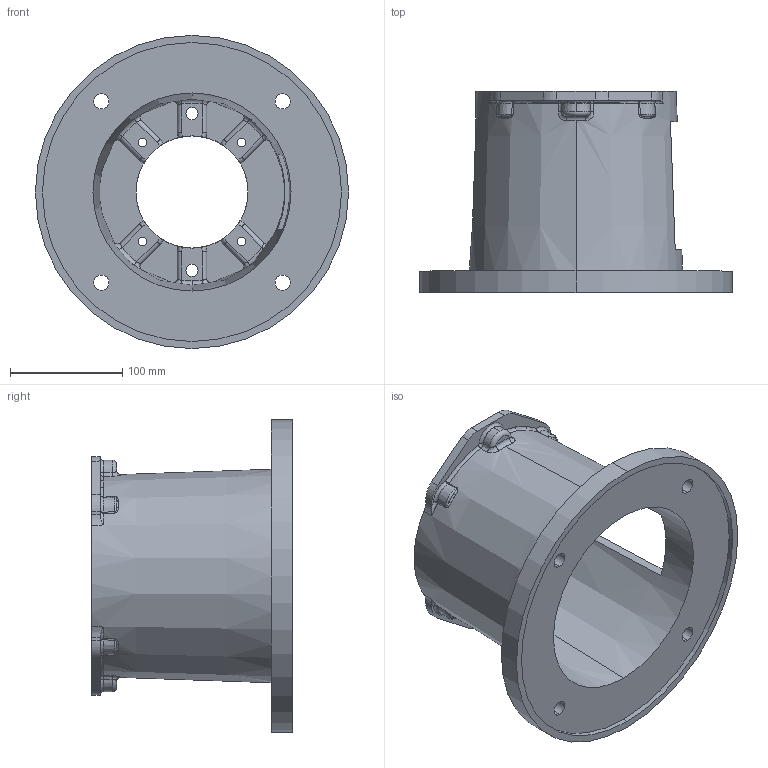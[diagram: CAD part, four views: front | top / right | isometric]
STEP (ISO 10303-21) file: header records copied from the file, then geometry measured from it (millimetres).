
FILE_DESCRIPTION (( 'STEP AP203' ), '1' );
FILE_NAME ('M28468100M.STEP', '2015-01-19T16:35:01', ( '' ), ( '' ), 'SwSTEP 2.0', 'SolidWorks 2014', '' );
FILE_SCHEMA (( 'CONFIG_CONTROL_DESIGN' ));
Length unit declared in the file: inch
Products named in the file (1): M28468100M
Bounding box: 279.4 x 179.32 x 279.4 mm (x, y, z)
Volume: 1370750.6 mm3; surface area: 311637.4 mm2
Topology: 1 solids, 1 shells, 272 faces, 712 edges, 436 vertices
Faces by surface type: torus 76, bspline 64, cylinder 58, plane 50, cone 24
Entity records: 12277 total; most frequent: CARTESIAN_POINT 5971, ORIENTED_EDGE 1408, DIRECTION 1230, EDGE_CURVE 704, AXIS2_PLACEMENT_3D 549, VERTEX_POINT 436, CIRCLE 340, EDGE_LOOP 298
